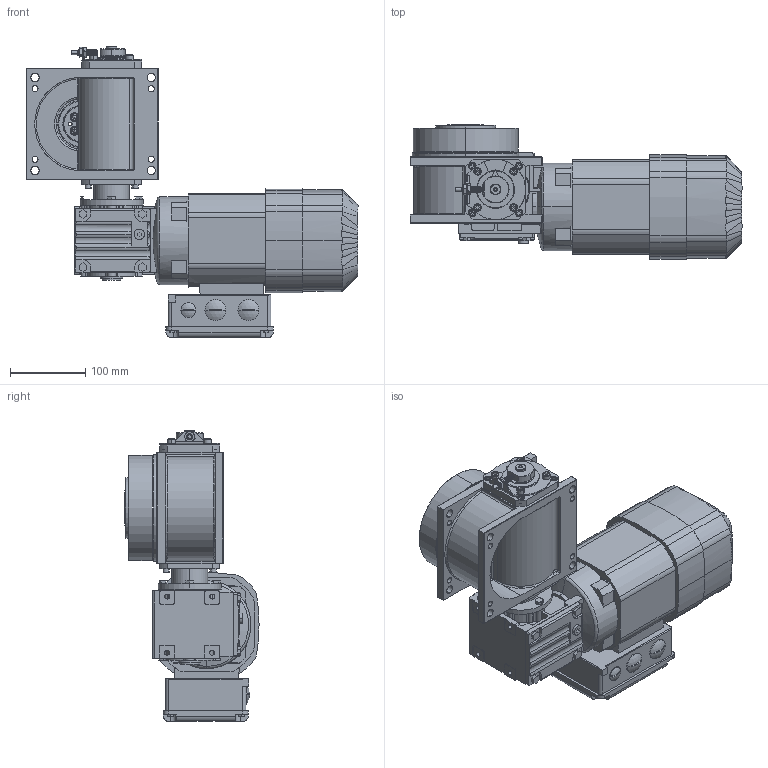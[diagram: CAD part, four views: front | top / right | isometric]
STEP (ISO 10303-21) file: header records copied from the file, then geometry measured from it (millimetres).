
FILE_DESCRIPTION (( 'STEP AP214' ), '1' );
FILE_NAME ('M140_SEW_WA20DRS71S4BE05_D3.STEP', '2021-01-22T15:24:39', ( '' ), ( '' ), 'SwSTEP 2.0', 'SolidWorks 2020', '' );
FILE_SCHEMA (( 'AUTOMOTIVE_DESIGN' ));
Length unit declared in the file: millimetre
Products named in the file (1): M140_SEW_WA20DRS71S4BE05_D3
Bounding box: 442.5 x 178.7 x 387.75 mm (x, y, z)
Surface area: 462623.7 mm2 (no closed solid volume)
Topology: 0 solids, 45 shells, 1303 faces, 4032 edges, 2690 vertices
Faces by surface type: plane 544, cylinder 515, bspline 94, cone 93, torus 51, sphere 6
Entity records: 69762 total; most frequent: CARTESIAN_POINT 20140, DIRECTION 7359, ORIENTED_EDGE 7059, EDGE_CURVE 4014, VERTEX_POINT 2690, AXIS2_PLACEMENT_3D 2644, VECTOR 2071, LINE 2071
